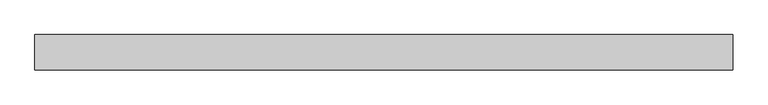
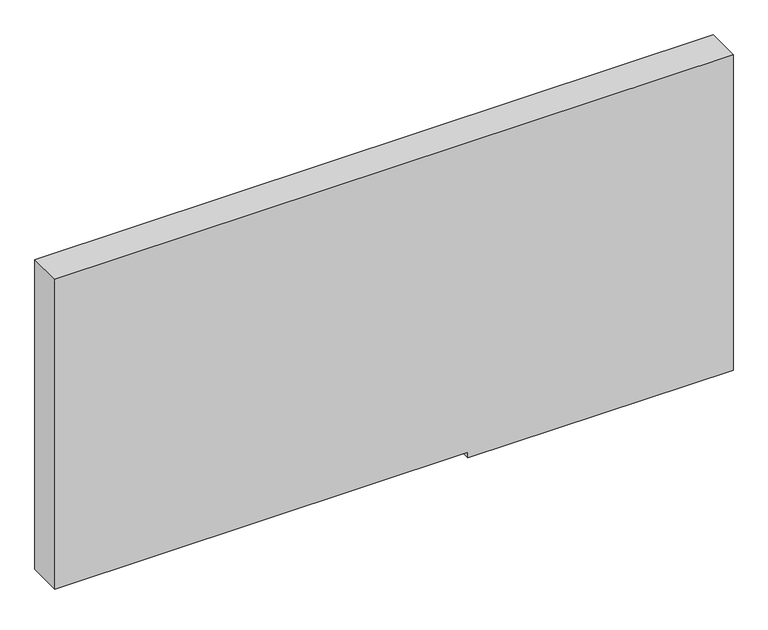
"""IFC4 building model written with IfcOpenShell, lengths in millimetres: plate geometry, Системная панель : Алюкобонд серый."""

from ifc_helpers import new_model, si_unit, frame, origin, place, context, project, spatial, polyline, outline, extrude, source, transform, mapped, element, save


def plate_1bbaca42(model_context):
    return source(origin(), model_context, "Body", "SweptSolid", [
        extrude(outline(polyline([(0.0, 128.790217), (0.0, 590.0), (580.0, 590.0), (580.0, -590.0), (10.0, -590.0), (10.0, 128.790217), (0.0, 128.790217)])), frame((0.0, -10.5, 0.0), z_axis=(0.0, 1.0, 0.0), x_axis=(0.0, 0.0, 1.0)), (0.0, 0.0, 1.0), 60.0),
    ])


if __name__ == "__main__":
    model = new_model("IFC4")
    model_context = context("Model", 3, world=origin())
    ifc_project = project(units=[si_unit("LENGTHUNIT", "METRE", prefix="MILLI")], contexts=[model_context])
    site = spatial("IfcSite", under=ifc_project)
    building = spatial("IfcBuilding", under=site)
    placement = place(None, origin())
    plate_shape = plate_1bbaca42(model_context)
    element("IfcPlate", 1, ObjectType="Системная панель : Алюкобонд серый", at=placement, inside=building, context=model_context, shape_type="MappedRepresentation", body=[
        mapped(plate_shape, transform((0.0, 0.0, 0.0), x_axis=(1.0, 0.0, 0.0), y_axis=(0.0, 1.0, 0.0), z_axis=(0.0, 0.0, 1.0))),
    ])
    save(model, "model.ifc")
